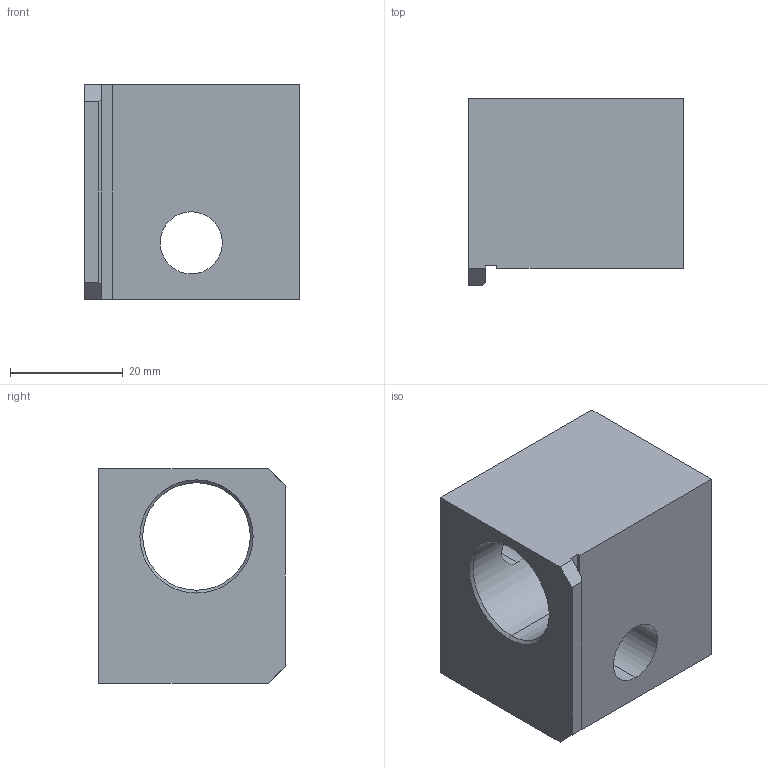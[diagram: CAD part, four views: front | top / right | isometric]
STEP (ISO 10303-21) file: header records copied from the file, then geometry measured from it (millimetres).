
FILE_DESCRIPTION (( 'STEP AP214' ), '1' );
FILE_NAME ('Half inch SINGLE POSITION HOLDER.STEP', '2013-12-20T15:42:11', ( '' ), ( '' ), 'SwSTEP 2.0', 'SolidWorks 2012', '' );
FILE_SCHEMA (( 'AUTOMOTIVE_DESIGN' ));
Length unit declared in the file: millimetre
Products named in the file (1): Half inch SINGLE POSITION HOLDER
Bounding box: 38 x 33 x 38 mm (x, y, z)
Volume: 27716.8 mm3; surface area: 10612.5 mm2
Topology: 1 solids, 1 shells, 32 faces, 79 edges, 50 vertices
Faces by surface type: plane 14, cylinder 10, cone 8
Entity records: 1179 total; most frequent: CARTESIAN_POINT 290, DIRECTION 165, ORIENTED_EDGE 158, EDGE_CURVE 79, AXIS2_PLACEMENT_3D 57, VECTOR 51, LINE 51, VERTEX_POINT 50
